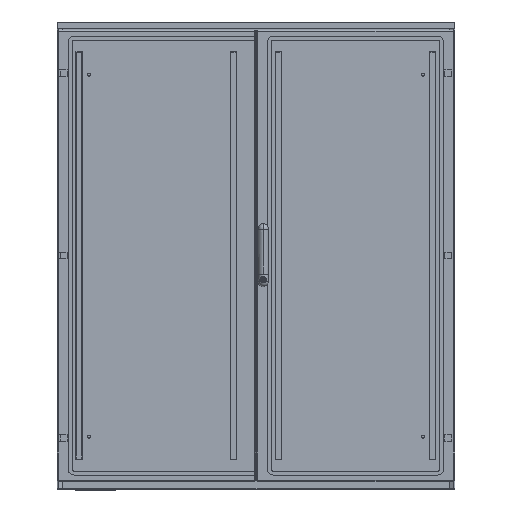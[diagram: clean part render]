
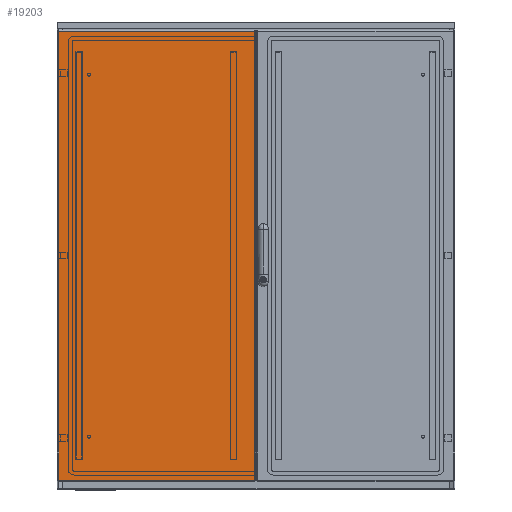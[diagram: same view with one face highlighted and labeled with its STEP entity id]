
A CAD part, front view. The second image highlights one B-rep face of the part: STEP entity #19203.
In plain terms, the highlighted planar face has unit normal (0, -1, 0) as drawn and (0, 0, 1) by its records, which use the part's own axes.
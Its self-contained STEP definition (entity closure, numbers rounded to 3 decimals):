
#2409 = ORIENTED_EDGE ( 'NONE', *, *, #22443, .T. ) ;
#3833 = DIRECTION ( 'NONE',  ( 0., 1., 0. ) ) ;
#10302 = VECTOR ( 'NONE', #10604, 1000. ) ;
#10604 = DIRECTION ( 'NONE',  ( -1., 0., 0. ) ) ;
#12154 = CARTESIAN_POINT ( 'NONE',  ( 592., 1357., 19. ) ) ;
#13647 = CARTESIAN_POINT ( 'NONE',  ( 592., 3., 19. ) ) ;
#14175 = FACE_OUTER_BOUND ( 'NONE', #22515, .T. ) ;
#14337 = LINE ( 'NONE', #31147, #10302 ) ;
#17329 = VECTOR ( 'NONE', #37536, 1000. ) ;
#17923 = VERTEX_POINT ( 'NONE', #13647 ) ;
#19203 = ADVANCED_FACE ( 'NONE', ( #14175 ), #30437, .F. ) ;
#21863 = AXIS2_PLACEMENT_3D ( 'NONE', #46692, #26461, #42707 ) ;
#22443 = EDGE_CURVE ( 'NONE', #17923, #48485, #24137, .T. ) ;
#22515 = EDGE_LOOP ( 'NONE', ( #43948, #44312, #35966, #2409 ) ) ;
#24137 = LINE ( 'NONE', #40394, #31572 ) ;
#25573 = CARTESIAN_POINT ( 'NONE',  ( 2.001, 3., 19. ) ) ;
#25980 = DIRECTION ( 'NONE',  ( 1., 0., 0. ) ) ;
#26295 = VECTOR ( 'NONE', #25980, 1000. ) ;
#26461 = DIRECTION ( 'NONE',  ( 0., 0., -1. ) ) ;
#29492 = EDGE_CURVE ( 'NONE', #35161, #17923, #33962, .T. ) ;
#30437 = PLANE ( 'NONE',  #21863 ) ;
#31147 = CARTESIAN_POINT ( 'NONE',  ( 0., 1357., 19. ) ) ;
#31572 = VECTOR ( 'NONE', #3833, 1000. ) ;
#33962 = LINE ( 'NONE', #37686, #26295 ) ;
#35161 = VERTEX_POINT ( 'NONE', #37422 ) ;
#35966 = ORIENTED_EDGE ( 'NONE', *, *, #29492, .T. ) ;
#36097 = EDGE_CURVE ( 'NONE', #40541, #35161, #42076, .T. ) ;
#36222 = EDGE_CURVE ( 'NONE', #48485, #40541, #14337, .T. ) ;
#37422 = CARTESIAN_POINT ( 'NONE',  ( 2.001, 3., 19. ) ) ;
#37536 = DIRECTION ( 'NONE',  ( 0., -1., 0. ) ) ;
#37686 = CARTESIAN_POINT ( 'NONE',  ( 0., 3., 19. ) ) ;
#40394 = CARTESIAN_POINT ( 'NONE',  ( 592., 1360., 19. ) ) ;
#40541 = VERTEX_POINT ( 'NONE', #43871 ) ;
#42076 = LINE ( 'NONE', #25573, #17329 ) ;
#42707 = DIRECTION ( 'NONE',  ( -1., 0., 0. ) ) ;
#43871 = CARTESIAN_POINT ( 'NONE',  ( 2.001, 1357., 19. ) ) ;
#43948 = ORIENTED_EDGE ( 'NONE', *, *, #36222, .T. ) ;
#44312 = ORIENTED_EDGE ( 'NONE', *, *, #36097, .T. ) ;
#46692 = CARTESIAN_POINT ( 'NONE',  ( 0., 1360., 19. ) ) ;
#48485 = VERTEX_POINT ( 'NONE', #12154 ) ;
